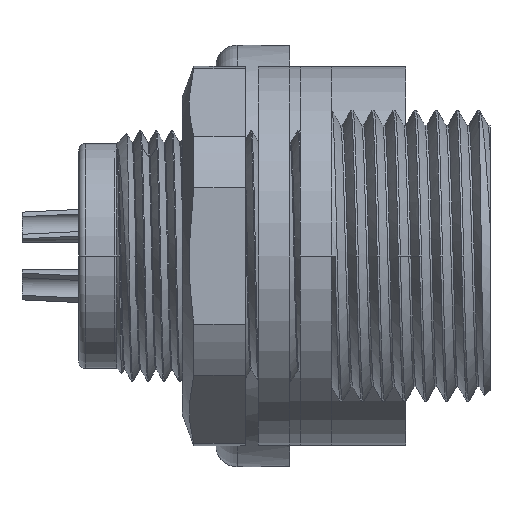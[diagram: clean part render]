
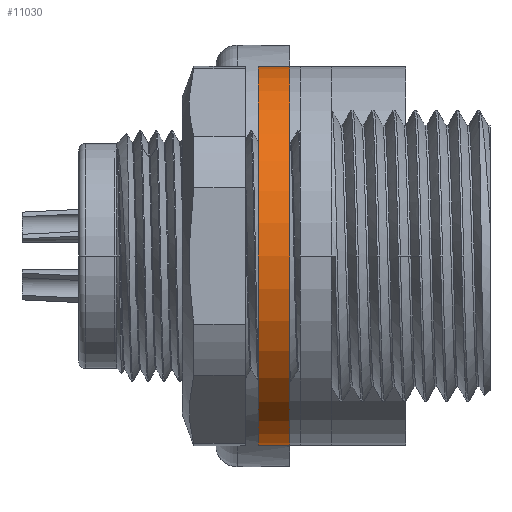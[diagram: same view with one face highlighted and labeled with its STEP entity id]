
A CAD part, front view. The second image highlights one B-rep face of the part: STEP entity #11030.
In plain terms, the highlighted cylindrical face has radius 9 mm (diameter 18 mm), a partial arc.
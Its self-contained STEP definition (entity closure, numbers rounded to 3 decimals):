
#2169=CARTESIAN_POINT('',(8.5,0.,0.));
#2170=DIRECTION('',(1.,0.,0.));
#2171=DIRECTION('',(0.,0.986,0.167));
#2172=AXIS2_PLACEMENT_3D('',#2169,#2170,#2171);
#2247=CARTESIAN_POINT('',(10.,0.,0.));
#2248=DIRECTION('',(-1.,0.,0.));
#2249=DIRECTION('',(0.,0.986,-0.167));
#2250=AXIS2_PLACEMENT_3D('',#2247,#2248,#2249);
#2288=DIRECTION('',(1.,0.,0.));
#2289=VECTOR('',#2288,1.5);
#2290=CARTESIAN_POINT('',(8.5,8.874,1.5));
#2291=LINE('',#2290,#2289);
#2292=DIRECTION('',(-1.,0.,0.));
#2293=VECTOR('',#2292,1.5);
#2294=CARTESIAN_POINT('',(10.,8.874,-1.5));
#2295=LINE('',#2294,#2293);
#5658=CARTESIAN_POINT('',(8.5,8.874,1.5));
#5659=VERTEX_POINT('',#5658);
#5660=CARTESIAN_POINT('',(8.5,8.874,-1.5));
#5661=VERTEX_POINT('',#5660);
#5663=CARTESIAN_POINT('',(10.,8.874,1.5));
#5665=VERTEX_POINT('',#5663);
#5668=CARTESIAN_POINT('',(10.,8.874,-1.5));
#5669=VERTEX_POINT('',#5668);
#11018=CARTESIAN_POINT('',(10.,0.,0.));
#11019=DIRECTION('',(-1.,0.,0.));
#11020=DIRECTION('',(0.,1.,0.));
#11021=AXIS2_PLACEMENT_3D('',#11018,#11019,#11020);
#11022=CYLINDRICAL_SURFACE('',#11021,9.);
#11023=ORIENTED_EDGE('',*,*,#10914,.F.);
#11024=ORIENTED_EDGE('',*,*,#11012,.T.);
#11025=ORIENTED_EDGE('',*,*,#10983,.F.);
#11027=ORIENTED_EDGE('',*,*,#11026,.T.);
#11028=EDGE_LOOP('',(#11023,#11024,#11025,#11027));
#11029=FACE_OUTER_BOUND('',#11028,.F.);
#11030=ADVANCED_FACE('',(#11029),#11022,.T.);
#2173=CIRCLE('',#2172,9.);
#2251=CIRCLE('',#2250,9.);
#10914=EDGE_CURVE('',#5659,#5661,#2173,.T.);
#10983=EDGE_CURVE('',#5669,#5665,#2251,.T.);
#11012=EDGE_CURVE('',#5659,#5665,#2291,.T.);
#11026=EDGE_CURVE('',#5669,#5661,#2295,.T.);
